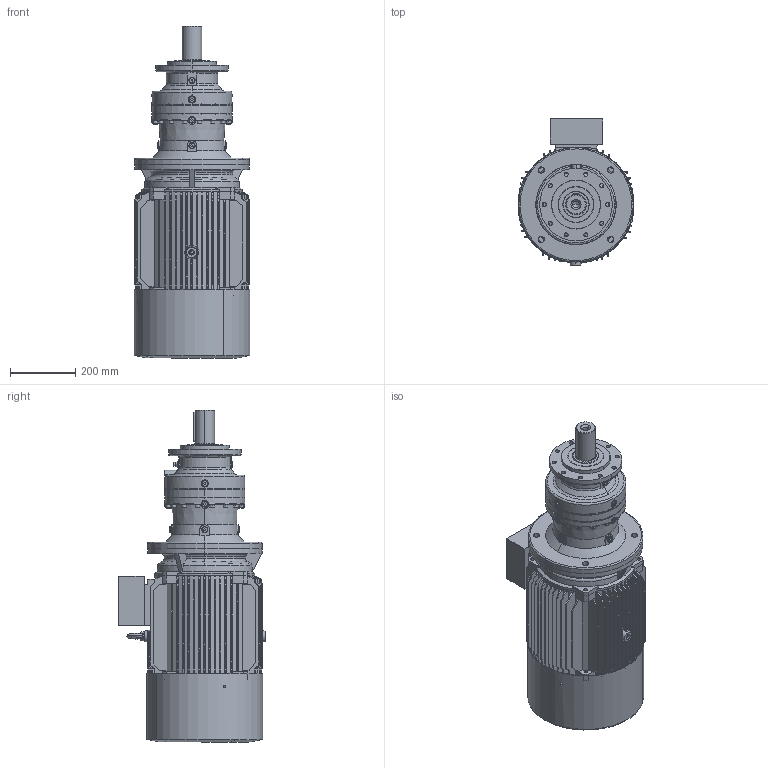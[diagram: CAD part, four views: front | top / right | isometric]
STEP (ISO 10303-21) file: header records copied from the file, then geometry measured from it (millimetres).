
FILE_DESCRIPTION (( 'STEP AP203' ), '1' );
FILE_NAME ('PVL-1501L-HS180M-4.STEP', '2019-05-27T11:07:14', ( '' ), ( '' ), 'SwSTEP 2.0', 'SolidWorks 2012', '' );
FILE_SCHEMA (( 'CONFIG_CONTROL_DESIGN' ));
Length unit declared in the file: millimetre
Products named in the file (14): M3-HS180M-FF-B5; M3-180M-FF-B5; PVL-1501L-HS180M-4; Y2-180-4.6.8+ª-¯ª­-È®+_-++ñ; Eyebolts GB_GB_FASTENER_SCREWS_FRS M12_1; Y2-180MB5+À+¿_-++ñ; Y2-180C++A+¦-¯ª¦+¦_-++ñ; Y2-180+¦i-_-++ñ; Y2-180-4.6.8-ª+---®+_-++ñ; PNL_1501L_0_0_A18_B5_ML13A_FL3A_0_0_0_0_0_0_0_0_0_0_0_M1; 15180B5_Varsayìlan; ML13A_Varsayìlan; FL3A_Varsayìlan; P15_Varsayìlan
Assembly tree (13 placements, depth 4):
  PVL-1501L-HS180M-4
    PNL_1501L_0_0_A18_B5_ML13A_FL3A_0_0_0_0_0_0_0_0_0_0_0_M1
      P15_Varsayìlan
      15180B5_Varsayìlan
      ML13A_Varsayìlan
      FL3A_Varsayìlan
    M3-HS180M-FF-B5
      M3-180M-FF-B5
        Y2-180C++A+¦-¯ª¦+¦_-++ñ
        Y2-180+¦i-_-++ñ
        Y2-180-4.6.8-ª+---®+_-++ñ
        Eyebolts GB_GB_FASTENER_SCREWS_FRS M12_1
        Y2-180MB5+À+¿_-++ñ
        Y2-180-4.6.8+ª-¯ª­-È®+_-++ñ
Bounding box: 354.42 x 448.65 x 1015.6 mm (x, y, z)
Volume: 21269645.1 mm3; surface area: 3394516.9 mm2
Topology: 11 solids, 11 shells, 1914 faces, 5125 edges, 3321 vertices
Faces by surface type: plane 857, cylinder 583, cone 313, bspline 129, torus 32
Entity records: 72052 total; most frequent: CARTESIAN_POINT 23383, ORIENTED_EDGE 10178, DIRECTION 9631, EDGE_CURVE 5089, AXIS2_PLACEMENT_3D 3676, VERTEX_POINT 3321, LINE 2279, VECTOR 2279
